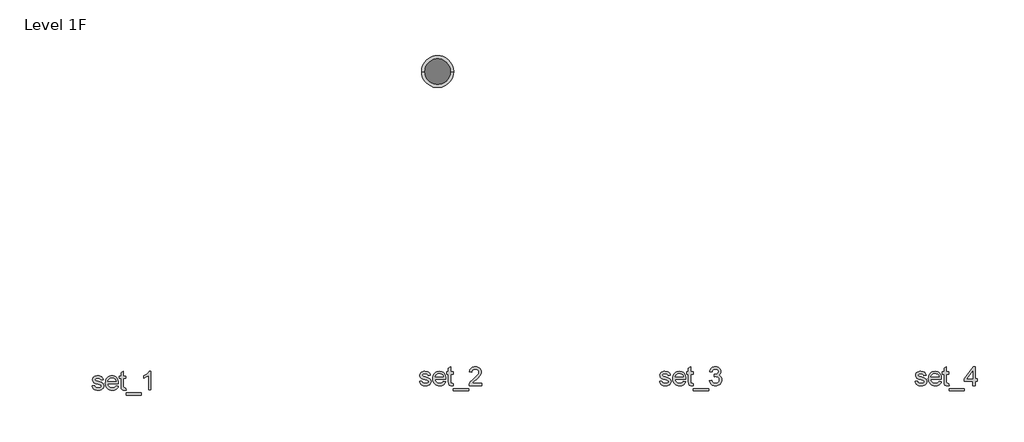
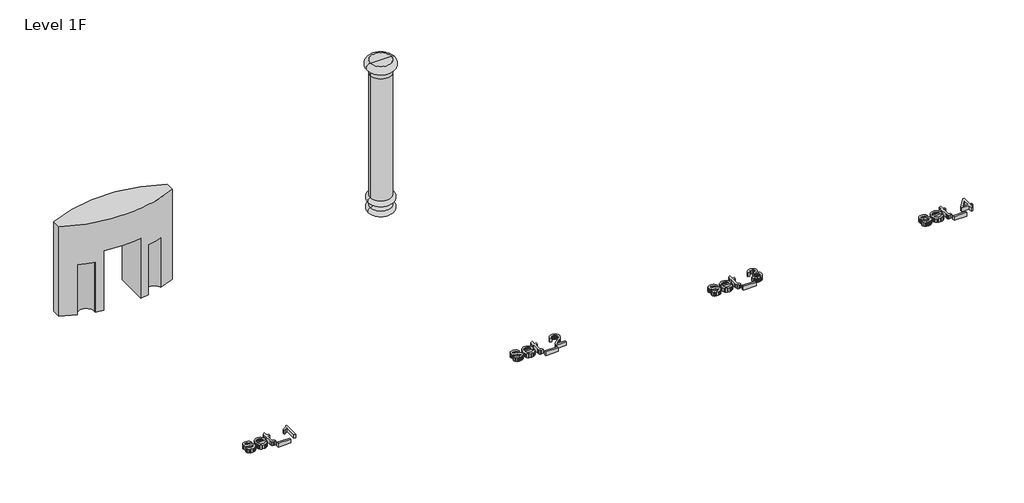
# One storey, incomplete: 6 proxies.
"""IFC4 building model written with IfcOpenShell, lengths in millimetres."""

from ifc_helpers import new_model, si_unit, point, frame, origin, place, context, project, spatial, polyline, circle_curve, ellipse_curve, trimmed, outline, extrude, element, save
from ifc_brep_helpers import plane_surface, cylinder_surface, revolved_surface, advanced_brep

model = new_model("IFC4")

# Units and contexts
model_context = context("Model", 3, world=origin())
ifc_project = project(units=[si_unit("LENGTHUNIT", "METRE", prefix="MILLI")], contexts=[model_context])

# Site, building, storey
site = spatial("IfcSite", under=ifc_project)
building = spatial("IfcBuilding", under=site)
storey = spatial("IfcBuildingStorey", under=building, Name="Level 1F", Elevation=100.0)

# Proxies
placement = place(None, origin())
element("IfcBuildingElementProxy", 1, Name="600mm Arial", ObjectType="600mm Arial", at=placement, inside=storey, context=model_context, shape_type="SweptSolid", body=[
    extrude(outline(polyline([(-14054.5708015, -36429.7363804), (-13980.7246477, -36420.5056111), (-13976.2625082, -36437.3445535), (-13969.078013, -36452.0921496), (-13959.1711621, -36464.7483996), (-13946.5419554, -36475.3133035), (-13931.1543352, -36483.6426304), (-13912.9722438, -36489.5921496), (-13868.2246477, -36494.351765), (-13824.0179169, -36489.9887842), (-13806.8364265, -36484.5350583), (-13792.9361861, -36476.8998419), (-13774.546763, -36457.9334958), (-13768.4169554, -36435.9383035), (-13769.9584217, -36425.9683515), (-13774.5828207, -36417.1161881), (-13793.0804169, -36402.7652265), (-13820.7366669, -36393.3902265), (-13869.0900323, -36381.7075342), (-13936.4818592, -36362.2183515), (-13980.2919554, -36345.5777265), (-14008.4349842, -36327.4226785), (-14028.8256092, -36303.3902265), (-14041.2114265, -36275.0128227), (-14045.3400323, -36243.8229188), (-14042.0227246, -36215.21114), (-14032.0708015, -36188.7988804), (-14016.3857054, -36165.6318131), (-13995.8688784, -36146.7556111), (-13975.4782534, -36134.8746015), (-13948.921763, -36124.9046496), (-13918.218638, -36118.1438323), (-13885.3881092, -36115.8902265), (-13837.3232054, -36119.5140246), (-13795.53234, -36130.3854188), (-13761.9265707, -36147.4407073), (-13738.4169554, -36169.6161881), (-13722.8400323, -36198.5524861), (-13713.03234, -36235.8902265), (-13786.8784938, -36245.1209958), (-13796.1994073, -36221.8818131), (-13814.6429169, -36204.3758035), (-13842.3893111, -36193.3962361), (-13879.6188784, -36189.7363804), (-13922.0227246, -36193.2339765), (-13950.2919554, -36203.726765), (-13966.1933977, -36218.8709958), (-13971.4938784, -36236.3229188), (-13969.2943592, -36247.6810919), (-13962.6958015, -36257.8133035), (-13951.4097438, -36266.8637842), (-13935.1477246, -36274.1113804), (-13871.5419554, -36289.8325342), (-13763.1525323, -36324.5921496), (-13734.5227246, -36341.2147458), (-13712.8159938, -36363.9671496), (-13699.1320996, -36392.9214765), (-13694.5708015, -36428.1498419), (-13699.9253688, -36464.5681111), (-13715.9890707, -36498.8229188), (-13742.1489265, -36528.2279669), (-13777.7919554, -36550.0969573), (-13820.84484, -36563.6726785), (-13869.234263, -36568.1979188), (-13908.9788544, -36566.0164285), (-13943.6933977, -36559.4719573), (-13973.3778929, -36548.5645054), (-13998.03234, -36533.2940727), (-14018.1705611, -36513.7327746), (-14034.3063784, -36489.9527265), (-14046.4397919, -36461.9539285), (-14054.5708015, -36429.7363804)])), frame((0.0, 0.0, 100.0), z_axis=(0.0, 0.0, 1.0), x_axis=(1.0, 0.0, 0.0)), (0.0, 0.0, 1.0), 150.0),
    extrude(outline(polyline([(-13307.7438784, -36429.7363804), (-13235.3400323, -36438.9671496), (-13246.4412943, -36467.9665486), (-13261.4277727, -36493.5224381), (-13280.2994674, -36515.6348179), (-13303.0563784, -36534.3036881), (-13329.4641308, -36549.132414), (-13359.2883496, -36559.7243611), (-13392.5290347, -36566.0795294), (-13429.1861861, -36568.1979188), (-13475.0064986, -36564.5425703), (-13515.8328207, -36553.5765246), (-13551.6651525, -36535.2997818), (-13582.5034938, -36509.7123419), (-13607.3021717, -36477.5263443), (-13625.015513, -36439.4539285), (-13635.6435179, -36395.4950943), (-13639.1861861, -36345.6498419), (-13635.6074602, -36294.1143852), (-13624.8712823, -36248.6907073), (-13606.9776525, -36209.3788083), (-13581.9265707, -36176.1786881), (-13551.1693592, -36149.8024861), (-13516.15734, -36130.9623419), (-13476.890513, -36119.6582554), (-13433.3688784, -36115.8902265), (-13391.2489866, -36119.649241), (-13353.1585419, -36130.9262842), (-13319.0975443, -36149.7213563), (-13289.0659938, -36176.0344573), (-13264.5512703, -36209.1624621), (-13247.0407534, -36248.4022458), (-13236.5344433, -36293.7538083), (-13233.03234, -36345.2171496), (-13233.4650323, -36365.1209958), (-13565.3400323, -36365.1209958), (-13561.0626885, -36394.5891448), (-13552.5575804, -36420.3974381), (-13539.8247078, -36442.5458756), (-13522.8640707, -36461.0344573), (-13502.6131693, -36475.6107794), (-13480.0095034, -36486.0224381), (-13455.0530731, -36492.2694333), (-13427.7438784, -36494.351765), (-13388.4409938, -36490.4935919), (-13355.3400323, -36478.9190727), (-13328.4409938, -36458.9070535), (-13307.7438784, -36429.7363804)]), holes=[polyline([(-13565.3400323, -36291.2748419), (-13306.8784938, -36291.2748419), (-13316.8664746, -36252.2604188), (-13325.4572198, -36236.9178708), (-13336.4458015, -36224.351765), (-13356.5840227, -36209.2075342), (-13379.4986861, -36198.3902265), (-13405.1897919, -36191.8998419), (-13433.65734, -36189.7363804), (-13459.6233856, -36191.4626424), (-13483.4349842, -36196.6414285), (-13505.0921356, -36205.2727385), (-13524.59484, -36217.3565727), (-13540.9605251, -36232.3340366), (-13553.2066188, -36249.6462361), (-13561.3331212, -36269.2931712), (-13565.3400323, -36291.2748419)])]), frame((0.0, 0.0, 100.0), z_axis=(0.0, 0.0, 1.0), x_axis=(1.0, 0.0, 0.0)), (0.0, 0.0, 1.0), 150.0),
    extrude(outline(polyline([(-13002.2631092, -36497.3806111), (-12993.03234, -36561.1306111), (-13048.2727246, -36568.1979188), (-13083.7174361, -36565.133015), (-13110.1477246, -36555.9383035), (-13128.8256092, -36541.7676304), (-13141.0131092, -36523.7748419), (-13147.71984, -36492.8733996), (-13149.9554169, -36439.976765), (-13149.9554169, -36198.9671496), (-13205.3400323, -36198.9671496), (-13205.3400323, -36125.1209958), (-13149.9554169, -36125.1209958), (-13149.9554169, -36019.6883035), (-13076.109263, -35976.2748419), (-13076.109263, -36125.1209958), (-13002.2631092, -36125.1209958), (-13002.2631092, -36198.9671496), (-13076.109263, -36198.9671496), (-13076.109263, -36437.8133035), (-13072.2150323, -36475.8902265), (-13059.59484, -36489.3758035), (-13048.9397919, -36493.1077746), (-13034.4265707, -36494.351765), (-13002.2631092, -36497.3806111)])), frame((0.0, 0.0, 100.0), z_axis=(0.0, 0.0, 1.0), x_axis=(1.0, 0.0, 0.0)), (0.0, 0.0, 1.0), 150.0),
    extrude(outline(polyline([(-12993.03234, -36725.1209958), (-12993.03234, -36651.2748419), (-12513.03234, -36651.2748419), (-12513.03234, -36725.1209958), (-12993.03234, -36725.1209958)])), frame((0.0, 0.0, 100.0), z_axis=(0.0, 0.0, 1.0), x_axis=(1.0, 0.0, 0.0)), (0.0, 0.0, 1.0), 150.0),
    extrude(outline(polyline([(-12217.6477246, -36558.9671496), (-12291.4938784, -36558.9671496), (-12291.4938784, -36098.5825342), (-12322.3232054, -36123.5164285), (-12361.4458015, -36148.414265), (-12402.515513, -36170.1750823), (-12439.1861861, -36185.6979188), (-12439.1861861, -36115.8902265), (-12381.187388, -36084.3397458), (-12330.9409938, -36046.8036881), (-12291.3316188, -36006.8878227), (-12265.2438784, -35968.1979188), (-12217.6477246, -35968.1979188), (-12217.6477246, -36558.9671496)])), frame((0.0, 0.0, 100.0), z_axis=(0.0, 0.0, 1.0), x_axis=(1.0, 0.0, 0.0)), (0.0, 0.0, 1.0), 150.0),
])
element("IfcBuildingElementProxy", 2, Name="600mm Arial", ObjectType="600mm Arial", at=placement, inside=storey, context=model_context, shape_type="SweptSolid", body=[
    extrude(outline(polyline([(-3809.5939102, -36291.1306753), (-3735.7477563, -36281.8999061), (-3731.2856169, -36298.7388484), (-3724.1011217, -36313.4864446), (-3714.1942707, -36326.1426946), (-3701.565064, -36336.7075984), (-3686.1774438, -36345.0369253), (-3667.9953525, -36350.9864446), (-3623.2477563, -36355.74606), (-3579.0410256, -36351.3830792), (-3561.8595352, -36345.9293532), (-3547.9592948, -36338.2941369), (-3529.5698717, -36319.3277907), (-3523.440064, -36297.3325984), (-3524.9815304, -36287.3626465), (-3529.6059294, -36278.510483), (-3548.1035256, -36264.1595215), (-3575.7597756, -36254.7845215), (-3624.1131409, -36243.1018292), (-3691.5049679, -36223.6126465), (-3735.315064, -36206.9720215), (-3763.4580929, -36188.8169734), (-3783.8487179, -36164.7845215), (-3796.2345352, -36136.4071177), (-3800.3631409, -36105.2172138), (-3797.0458332, -36076.605435), (-3787.0939102, -36050.1931753), (-3771.408814, -36027.026108), (-3750.8919871, -36008.1499061), (-3730.5013621, -35996.2688965), (-3703.9448717, -35986.2989446), (-3673.2417467, -35979.5381273), (-3640.4112179, -35977.2845215), (-3592.346314, -35980.9083196), (-3550.5554486, -35991.7797138), (-3516.9496794, -36008.8350023), (-3493.440064, -36031.010483), (-3477.8631409, -36059.9467811), (-3468.0554486, -36097.2845215), (-3541.9016025, -36106.5152907), (-3551.2225159, -36083.276108), (-3569.6660256, -36065.7700984), (-3597.4124198, -36054.7905311), (-3634.6419871, -36051.1306753), (-3677.0458332, -36054.6282715), (-3705.315064, -36065.12106), (-3721.2165063, -36080.2652907), (-3726.5169871, -36097.7172138), (-3724.3174679, -36109.0753869), (-3717.7189102, -36119.2075984), (-3706.4328525, -36128.2580792), (-3690.1708332, -36135.5056753), (-3626.565064, -36151.2268292), (-3518.1756409, -36185.9864446), (-3489.5458332, -36202.6090407), (-3467.8391025, -36225.3614446), (-3454.1552082, -36254.3157715), (-3449.5939102, -36289.5441369), (-3454.9484775, -36325.9624061), (-3471.0121794, -36360.2172138), (-3497.1720352, -36389.6222619), (-3532.815064, -36411.4912523), (-3575.8679486, -36425.0669734), (-3624.2573717, -36429.5922138), (-3664.0019631, -36427.4107234), (-3698.7165063, -36420.8662523), (-3728.4010015, -36409.9588003), (-3753.0554486, -36394.6883677), (-3773.1936698, -36375.1270696), (-3789.3294871, -36351.3470215), (-3801.4629006, -36323.3482234), (-3809.5939102, -36291.1306753)])), frame((0.0, 0.0, 100.0), z_axis=(0.0, 0.0, 1.0), x_axis=(1.0, 0.0, 0.0)), (0.0, 0.0, 1.0), 150.0),
    extrude(outline(polyline([(-3062.7669871, -36291.1306753), (-2990.3631409, -36300.3614446), (-3001.464403, -36329.3608436), (-3016.4508813, -36354.916733), (-3035.322576, -36377.0291128), (-3058.0794871, -36395.697983), (-3084.4872395, -36410.526709), (-3114.3114582, -36421.1186561), (-3147.5521433, -36427.4738244), (-3184.2092948, -36429.5922138), (-3230.0296073, -36425.9368653), (-3270.8559294, -36414.9708196), (-3306.6882611, -36396.6940768), (-3337.5266025, -36371.1066369), (-3362.3252804, -36338.9206393), (-3380.0386217, -36300.8482234), (-3390.6666265, -36256.8893893), (-3394.2092948, -36207.0441369), (-3390.6305688, -36155.5086802), (-3379.8943909, -36110.0850023), (-3362.0007611, -36070.7731032), (-3336.9496794, -36037.572983), (-3306.1924679, -36011.1967811), (-3271.1804486, -35992.3566369), (-3231.9136217, -35981.0525503), (-3188.3919871, -35977.2845215), (-3146.2720953, -35981.0435359), (-3108.1816506, -35992.3205792), (-3074.120653, -36011.1156513), (-3044.0891025, -36037.4287523), (-3019.5743789, -36070.5567571), (-3002.0638621, -36109.7965407), (-2991.557552, -36155.1481032), (-2988.0554486, -36206.6114446), (-2988.4881409, -36226.5152907), (-3320.3631409, -36226.5152907), (-3316.0857972, -36255.9834398), (-3307.580689, -36281.791733), (-3294.8478164, -36303.9401705), (-3277.8871794, -36322.4287523), (-3257.636278, -36337.0050744), (-3235.0326121, -36347.416733), (-3210.0761818, -36353.6637282), (-3182.7669871, -36355.74606), (-3143.4641025, -36351.8878869), (-3110.3631409, -36340.3133677), (-3083.4641025, -36320.3013484), (-3062.7669871, -36291.1306753)]), holes=[polyline([(-3320.3631409, -36152.6691369), (-3061.9016025, -36152.6691369), (-3071.8895832, -36113.6547138), (-3080.4803284, -36098.3121657), (-3091.4689102, -36085.74606), (-3111.6071313, -36070.6018292), (-3134.5217948, -36059.7845215), (-3160.2129006, -36053.2941369), (-3188.6804486, -36051.1306753), (-3214.6464943, -36052.8569374), (-3238.4580929, -36058.0357234), (-3260.1152443, -36066.6670335), (-3279.6179486, -36078.7508677), (-3295.9836337, -36093.7283316), (-3308.2297275, -36111.0405311), (-3316.3562299, -36130.6874662), (-3320.3631409, -36152.6691369)])]), frame((0.0, 0.0, 100.0), z_axis=(0.0, 0.0, 1.0), x_axis=(1.0, 0.0, 0.0)), (0.0, 0.0, 1.0), 150.0),
    extrude(outline(polyline([(-2757.2862179, -36358.7749061), (-2748.0554486, -36422.5249061), (-2803.2958332, -36429.5922138), (-2838.7405448, -36426.52731), (-2865.1708332, -36417.3325984), (-2883.8487179, -36403.1619253), (-2896.0362179, -36385.1691369), (-2902.7429486, -36354.2676946), (-2904.9785256, -36301.37106), (-2904.9785256, -36060.3614446), (-2960.3631409, -36060.3614446), (-2960.3631409, -35986.5152907), (-2904.9785256, -35986.5152907), (-2904.9785256, -35881.0825984), (-2831.1323717, -35837.6691369), (-2831.1323717, -35986.5152907), (-2757.2862179, -35986.5152907), (-2757.2862179, -36060.3614446), (-2831.1323717, -36060.3614446), (-2831.1323717, -36299.2075984), (-2827.2381409, -36337.2845215), (-2814.6179486, -36350.7700984), (-2803.9629006, -36354.5020696), (-2789.4496794, -36355.74606), (-2757.2862179, -36358.7749061)])), frame((0.0, 0.0, 100.0), z_axis=(0.0, 0.0, 1.0), x_axis=(1.0, 0.0, 0.0)), (0.0, 0.0, 1.0), 150.0),
    extrude(outline(polyline([(-2748.0554486, -36586.5152907), (-2748.0554486, -36512.6691369), (-2268.0554486, -36512.6691369), (-2268.0554486, -36586.5152907), (-2748.0554486, -36586.5152907)])), frame((0.0, 0.0, 100.0), z_axis=(0.0, 0.0, 1.0), x_axis=(1.0, 0.0, 0.0)), (0.0, 0.0, 1.0), 150.0),
    extrude(outline(polyline([(-1871.1323717, -36346.5152907), (-1871.1323717, -36420.3614446), (-2258.8246794, -36420.3614446), (-2257.2020832, -36394.3638484), (-2250.8919871, -36369.447983), (-2232.6828525, -36329.6583196), (-2206.0362179, -36291.05856), (-2167.4905448, -36250.6559157), (-2113.5842948, -36205.4575984), (-2033.8967948, -36134.6763484), (-1986.0842948, -36082.4287523), (-1972.1389823, -36061.0825984), (-1962.1780448, -36040.0249061), (-1956.2014823, -36019.2556753), (-1954.2092948, -35998.7749061), (-1956.088802, -35979.5065768), (-1961.7273236, -35961.7977427), (-1971.1248597, -35945.6484037), (-1984.2814102, -35931.05856), (-2000.4668068, -35918.9747258), (-2018.9508813, -35910.3434157), (-2039.7336337, -35905.1646297), (-2062.815064, -35903.4383677), (-2087.1314703, -35905.1240648), (-2108.8787659, -35910.1811561), (-2128.056951, -35918.6096417), (-2144.6660256, -35930.4095215), (-2158.1020232, -35945.1841609), (-2167.7609775, -35962.5369253), (-2173.6428885, -35982.4678148), (-2175.7477563, -36004.9768292), (-2249.5939102, -35995.74606), (-2243.2432491, -35957.6240648), (-2231.6912659, -35924.3157715), (-2214.9379607, -35895.8211802), (-2192.9833332, -35872.1402907), (-2166.3321914, -35853.5255071), (-2135.4893429, -35840.229233), (-2100.4547876, -35832.2514686), (-2061.2285256, -35829.5922138), (-2021.650701, -35832.5489446), (-1986.4268429, -35841.4191369), (-1955.556951, -35856.2027907), (-1929.0410256, -35876.8999061), (-1907.744451, -35901.9780311), (-1892.5326121, -35929.9047138), (-1883.4055087, -35960.6799542), (-1880.3631409, -35994.3037523), (-1883.6443909, -36029.6222619), (-1893.4881409, -36064.3277907), (-1910.9580929, -36099.6282715), (-1937.1179486, -36136.7316369), (-1978.8186698, -36181.0285119), (-2042.9112179, -36237.9095215), (-2127.8631409, -36308.9431753), (-2161.1804486, -36346.5152907), (-1871.1323717, -36346.5152907)])), frame((0.0, 0.0, 100.0), z_axis=(0.0, 0.0, 1.0), x_axis=(1.0, 0.0, 0.0)), (0.0, 0.0, 1.0), 150.0),
])
element("IfcBuildingElementProxy", 3, Name="600mm Arial", ObjectType="600mm Arial", at=placement, inside=storey, context=model_context, shape_type="SweptSolid", body=[
    extrude(outline(polyline([(3701.1603942, -36291.1306753), (3775.006548, -36281.8999061), (3779.4686875, -36298.7388484), (3786.6531827, -36313.4864446), (3796.5600336, -36326.1426946), (3809.1892403, -36336.7075984), (3824.5768605, -36345.0369253), (3842.7589519, -36350.9864446), (3887.506548, -36355.74606), (3931.7132788, -36351.3830792), (3948.8947692, -36345.9293532), (3962.7950096, -36338.2941369), (3981.1844327, -36319.3277907), (3987.3142403, -36297.3325984), (3985.772774, -36287.3626465), (3981.148375, -36278.510483), (3962.6507788, -36264.1595215), (3934.9945288, -36254.7845215), (3886.6411634, -36243.1018292), (3819.2493365, -36223.6126465), (3775.4392403, -36206.9720215), (3747.2962115, -36188.8169734), (3726.9055865, -36164.7845215), (3714.5197692, -36136.4071177), (3710.3911634, -36105.2172138), (3713.7084711, -36076.605435), (3723.6603942, -36050.1931753), (3739.3454903, -36027.026108), (3759.8623173, -36008.1499061), (3780.2529423, -35996.2688965), (3806.8094327, -35986.2989446), (3837.5125577, -35979.5381273), (3870.3430865, -35977.2845215), (3918.4079903, -35980.9083196), (3960.1988557, -35991.7797138), (3993.804625, -36008.8350023), (4017.3142403, -36031.010483), (4032.8911634, -36059.9467811), (4042.6988557, -36097.2845215), (3968.8527019, -36106.5152907), (3959.5317884, -36083.276108), (3941.0882788, -36065.7700984), (3913.3418846, -36054.7905311), (3876.1123173, -36051.1306753), (3833.7084711, -36054.6282715), (3805.4392403, -36065.12106), (3789.537798, -36080.2652907), (3784.2373173, -36097.7172138), (3786.4368365, -36109.0753869), (3793.0353942, -36119.2075984), (3804.3214519, -36128.2580792), (3820.5834711, -36135.5056753), (3884.1892403, -36151.2268292), (3992.5786634, -36185.9864446), (4021.2084711, -36202.6090407), (4042.9152019, -36225.3614446), (4056.5990961, -36254.3157715), (4061.1603942, -36289.5441369), (4055.8058269, -36325.9624061), (4039.742125, -36360.2172138), (4013.5822692, -36389.6222619), (3977.9392403, -36411.4912523), (3934.8863557, -36425.0669734), (3886.4969327, -36429.5922138), (3846.7523413, -36427.4107234), (3812.037798, -36420.8662523), (3782.3533028, -36409.9588003), (3757.6988557, -36394.6883677), (3737.5606346, -36375.1270696), (3721.4248173, -36351.3470215), (3709.2914038, -36323.3482234), (3701.1603942, -36291.1306753)])), frame((0.0, 0.0, 100.0), z_axis=(0.0, 0.0, 1.0), x_axis=(1.0, 0.0, 0.0)), (0.0, 0.0, 1.0), 150.0),
    extrude(outline(polyline([(4447.9873173, -36291.1306753), (4520.3911634, -36300.3614446), (4509.2899014, -36329.3608436), (4494.303423, -36354.916733), (4475.4317283, -36377.0291128), (4452.6748173, -36395.697983), (4426.2670649, -36410.526709), (4396.4428461, -36421.1186561), (4363.202161, -36427.4738244), (4326.5450096, -36429.5922138), (4280.7246971, -36425.9368653), (4239.898375, -36414.9708196), (4204.0660432, -36396.6940768), (4173.2277019, -36371.1066369), (4148.429024, -36338.9206393), (4130.7156827, -36300.8482234), (4120.0876778, -36256.8893893), (4116.5450096, -36207.0441369), (4120.1237355, -36155.5086802), (4130.8599134, -36110.0850023), (4148.7535432, -36070.7731032), (4173.804625, -36037.572983), (4204.5618365, -36011.1967811), (4239.5738557, -35992.3566369), (4278.8406827, -35981.0525503), (4322.3623173, -35977.2845215), (4364.4822091, -35981.0435359), (4402.5726538, -35992.3205792), (4436.6336514, -36011.1156513), (4466.6652019, -36037.4287523), (4491.1799254, -36070.5567571), (4508.6904423, -36109.7965407), (4519.1967524, -36155.1481032), (4522.6988557, -36206.6114446), (4522.2661634, -36226.5152907), (4190.3911634, -36226.5152907), (4194.6685072, -36255.9834398), (4203.1736153, -36281.791733), (4215.9064879, -36303.9401705), (4232.867125, -36322.4287523), (4253.1180264, -36337.0050744), (4275.7216923, -36347.416733), (4300.6781226, -36353.6637282), (4327.9873173, -36355.74606), (4367.2902019, -36351.8878869), (4400.3911634, -36340.3133677), (4427.2902019, -36320.3013484), (4447.9873173, -36291.1306753)]), holes=[polyline([(4190.3911634, -36152.6691369), (4448.8527019, -36152.6691369), (4438.8647211, -36113.6547138), (4430.2739759, -36098.3121657), (4419.2853942, -36085.74606), (4399.147173, -36070.6018292), (4376.2325096, -36059.7845215), (4350.5414038, -36053.2941369), (4322.0738557, -36051.1306753), (4296.1078101, -36052.8569374), (4272.2962115, -36058.0357234), (4250.6390601, -36066.6670335), (4231.1363557, -36078.7508677), (4214.7706706, -36093.7283316), (4202.5245769, -36111.0405311), (4194.3980745, -36130.6874662), (4190.3911634, -36152.6691369)])]), frame((0.0, 0.0, 100.0), z_axis=(0.0, 0.0, 1.0), x_axis=(1.0, 0.0, 0.0)), (0.0, 0.0, 1.0), 150.0),
    extrude(outline(polyline([(4753.4680865, -36358.7749061), (4762.6988557, -36422.5249061), (4707.4584711, -36429.5922138), (4672.0137596, -36426.52731), (4645.5834711, -36417.3325984), (4626.9055865, -36403.1619253), (4614.7180865, -36385.1691369), (4608.0113557, -36354.2676946), (4605.7757788, -36301.37106), (4605.7757788, -36060.3614446), (4550.3911634, -36060.3614446), (4550.3911634, -35986.5152907), (4605.7757788, -35986.5152907), (4605.7757788, -35881.0825984), (4679.6219327, -35837.6691369), (4679.6219327, -35986.5152907), (4753.4680865, -35986.5152907), (4753.4680865, -36060.3614446), (4679.6219327, -36060.3614446), (4679.6219327, -36299.2075984), (4683.5161634, -36337.2845215), (4696.1363557, -36350.7700984), (4706.7914038, -36354.5020696), (4721.304625, -36355.74606), (4753.4680865, -36358.7749061)])), frame((0.0, 0.0, 100.0), z_axis=(0.0, 0.0, 1.0), x_axis=(1.0, 0.0, 0.0)), (0.0, 0.0, 1.0), 150.0),
    extrude(outline(polyline([(4762.6988557, -36586.5152907), (4762.6988557, -36512.6691369), (5242.6988557, -36512.6691369), (5242.6988557, -36586.5152907), (4762.6988557, -36586.5152907)])), frame((0.0, 0.0, 100.0), z_axis=(0.0, 0.0, 1.0), x_axis=(1.0, 0.0, 0.0)), (0.0, 0.0, 1.0), 150.0),
    extrude(outline(polyline([(5261.1603942, -36263.4383677), (5335.006548, -36254.2075984), (5351.539, -36300.6138484), (5362.6853341, -36318.1649302), (5375.7517403, -36331.947983), (5391.0356947, -36342.3596417), (5408.834673, -36349.7965407), (5429.1486754, -36354.2586802), (5451.9777019, -36355.74606), (5478.7325096, -36353.6997859), (5502.6027019, -36347.5609638), (5523.5882788, -36337.3295936), (5541.6892403, -36323.0056753), (5556.2655625, -36305.6619253), (5566.6772211, -36286.37106), (5572.9242163, -36265.1330792), (5575.006548, -36241.947983), (5572.9422452, -36219.8671537), (5566.7493365, -36199.7785119), (5556.4278221, -36181.6820576), (5541.9777019, -36165.5777907), (5524.3454903, -36152.3581393), (5504.4777019, -36142.9155311), (5482.3743365, -36137.2499662), (5458.0353942, -36135.3614446), (5434.7060673, -36137.3806753), (5406.256548, -36143.4383677), (5414.4777019, -36069.5922138), (5426.304625, -36070.4575984), (5470.5474134, -36065.1571177), (5510.1027019, -36049.2556753), (5526.38275, -36037.230435), (5538.0113557, -36022.3566369), (5544.9885192, -36004.6342811), (5547.3142403, -35984.0633677), (5545.6285432, -35967.3641489), (5540.5714519, -35952.1703388), (5532.1429663, -35938.4819374), (5520.3430865, -35926.2989446), (5505.8839519, -35916.2974422), (5489.4777019, -35909.1535119), (5450.8238557, -35903.4383677), (5412.0978942, -35909.2075984), (5395.3851538, -35916.4191369), (5380.4392403, -35926.5152907), (5367.6297452, -35939.49606), (5357.3262596, -35955.3614446), (5349.5287836, -35974.1114446), (5344.2373173, -35995.74606), (5270.3911634, -35986.5152907), (5279.1441682, -35951.2598821), (5292.1339519, -35920.2051946), (5309.3605144, -35893.3512282), (5330.8238557, -35870.697983), (5355.8478942, -35852.714209), (5383.756548, -35839.8686561), (5414.5498173, -35832.1613244), (5448.2277019, -35829.5922138), (5494.6519807, -35834.6583196), (5537.2902019, -35849.8566369), (5573.2397211, -35873.8350023), (5599.5978942, -35905.2412523), (5615.7697692, -35941.4251465), (5621.1603942, -35979.7364446), (5616.0402019, -36015.43356), (5600.679625, -36047.8133677), (5575.2950096, -36075.3975023), (5540.1027019, -36096.7075984), (5564.7120769, -36104.4059157), (5586.3286634, -36115.385483), (5604.9524615, -36129.6463003), (5620.5834711, -36147.1883677), (5632.9512596, -36167.5789927), (5641.7853942, -36190.385483), (5647.085875, -36215.6078388), (5648.8527019, -36243.24606), (5645.319048, -36280.7100023), (5634.7180865, -36315.2172138), (5617.0498173, -36346.7676946), (5592.3142403, -36375.3614446), (5562.179024, -36399.0874061), (5528.3118365, -36416.0345215), (5490.7126778, -36426.2027907), (5449.381548, -36429.5922138), (5412.0257788, -36426.698584), (5377.9873173, -36418.0176946), (5347.2661634, -36403.5495455), (5319.8623173, -36383.2941369), (5296.8845528, -36358.4413725), (5279.4416442, -36330.1811561), (5267.5335913, -36298.5134878), (5261.1603942, -36263.4383677)])), frame((0.0, 0.0, 100.0), z_axis=(0.0, 0.0, 1.0), x_axis=(1.0, 0.0, 0.0)), (0.0, 0.0, 1.0), 150.0),
])
element("IfcBuildingElementProxy", 4, Name="600mm Arial", ObjectType="600mm Arial", at=placement, inside=storey, context=model_context, shape_type="SweptSolid", body=[
    extrude(outline(polyline([(11701.1603942, -36291.1306753), (11775.006548, -36281.8999061), (11779.4686875, -36298.7388484), (11786.6531827, -36313.4864446), (11796.5600336, -36326.1426946), (11809.1892403, -36336.7075984), (11824.5768605, -36345.0369253), (11842.7589519, -36350.9864446), (11887.506548, -36355.74606), (11931.7132788, -36351.3830792), (11948.8947692, -36345.9293532), (11962.7950096, -36338.2941369), (11981.1844327, -36319.3277907), (11987.3142403, -36297.3325984), (11985.772774, -36287.3626465), (11981.148375, -36278.510483), (11962.6507788, -36264.1595215), (11934.9945288, -36254.7845215), (11886.6411634, -36243.1018292), (11819.2493365, -36223.6126465), (11775.4392403, -36206.9720215), (11747.2962115, -36188.8169734), (11726.9055865, -36164.7845215), (11714.5197692, -36136.4071177), (11710.3911634, -36105.2172138), (11713.7084711, -36076.605435), (11723.6603942, -36050.1931753), (11739.3454903, -36027.026108), (11759.8623173, -36008.1499061), (11780.2529423, -35996.2688965), (11806.8094327, -35986.2989446), (11837.5125577, -35979.5381273), (11870.3430865, -35977.2845215), (11918.4079903, -35980.9083196), (11960.1988557, -35991.7797138), (11993.804625, -36008.8350023), (12017.3142403, -36031.010483), (12032.8911634, -36059.9467811), (12042.6988557, -36097.2845215), (11968.8527019, -36106.5152907), (11959.5317884, -36083.276108), (11941.0882788, -36065.7700984), (11913.3418846, -36054.7905311), (11876.1123173, -36051.1306753), (11833.7084711, -36054.6282715), (11805.4392403, -36065.12106), (11789.537798, -36080.2652907), (11784.2373173, -36097.7172138), (11786.4368365, -36109.0753869), (11793.0353942, -36119.2075984), (11804.3214519, -36128.2580792), (11820.5834711, -36135.5056753), (11884.1892403, -36151.2268292), (11992.5786634, -36185.9864446), (12021.2084711, -36202.6090407), (12042.9152019, -36225.3614446), (12056.5990961, -36254.3157715), (12061.1603942, -36289.5441369), (12055.8058269, -36325.9624061), (12039.742125, -36360.2172138), (12013.5822692, -36389.6222619), (11977.9392403, -36411.4912523), (11934.8863557, -36425.0669734), (11886.4969327, -36429.5922138), (11846.7523413, -36427.4107234), (11812.037798, -36420.8662523), (11782.3533028, -36409.9588003), (11757.6988557, -36394.6883677), (11737.5606346, -36375.1270696), (11721.4248173, -36351.3470215), (11709.2914038, -36323.3482234), (11701.1603942, -36291.1306753)])), frame((0.0, 0.0, 100.0), z_axis=(0.0, 0.0, 1.0), x_axis=(1.0, 0.0, 0.0)), (0.0, 0.0, 1.0), 150.0),
    extrude(outline(polyline([(12447.9873173, -36291.1306753), (12520.3911634, -36300.3614446), (12509.2899014, -36329.3608436), (12494.303423, -36354.916733), (12475.4317283, -36377.0291128), (12452.6748173, -36395.697983), (12426.2670649, -36410.526709), (12396.4428461, -36421.1186561), (12363.202161, -36427.4738244), (12326.5450096, -36429.5922138), (12280.7246971, -36425.9368653), (12239.898375, -36414.9708196), (12204.0660432, -36396.6940768), (12173.2277019, -36371.1066369), (12148.429024, -36338.9206393), (12130.7156827, -36300.8482234), (12120.0876778, -36256.8893893), (12116.5450096, -36207.0441369), (12120.1237355, -36155.5086802), (12130.8599134, -36110.0850023), (12148.7535432, -36070.7731032), (12173.804625, -36037.572983), (12204.5618365, -36011.1967811), (12239.5738557, -35992.3566369), (12278.8406827, -35981.0525503), (12322.3623173, -35977.2845215), (12364.4822091, -35981.0435359), (12402.5726538, -35992.3205792), (12436.6336514, -36011.1156513), (12466.6652019, -36037.4287523), (12491.1799254, -36070.5567571), (12508.6904423, -36109.7965407), (12519.1967524, -36155.1481032), (12522.6988557, -36206.6114446), (12522.2661634, -36226.5152907), (12190.3911634, -36226.5152907), (12194.6685072, -36255.9834398), (12203.1736153, -36281.791733), (12215.9064879, -36303.9401705), (12232.867125, -36322.4287523), (12253.1180264, -36337.0050744), (12275.7216923, -36347.416733), (12300.6781226, -36353.6637282), (12327.9873173, -36355.74606), (12367.2902019, -36351.8878869), (12400.3911634, -36340.3133677), (12427.2902019, -36320.3013484), (12447.9873173, -36291.1306753)]), holes=[polyline([(12190.3911634, -36152.6691369), (12448.8527019, -36152.6691369), (12438.8647211, -36113.6547138), (12430.2739759, -36098.3121657), (12419.2853942, -36085.74606), (12399.147173, -36070.6018292), (12376.2325096, -36059.7845215), (12350.5414038, -36053.2941369), (12322.0738557, -36051.1306753), (12296.1078101, -36052.8569374), (12272.2962115, -36058.0357234), (12250.6390601, -36066.6670335), (12231.1363557, -36078.7508677), (12214.7706706, -36093.7283316), (12202.5245769, -36111.0405311), (12194.3980745, -36130.6874662), (12190.3911634, -36152.6691369)])]), frame((0.0, 0.0, 100.0), z_axis=(0.0, 0.0, 1.0), x_axis=(1.0, 0.0, 0.0)), (0.0, 0.0, 1.0), 150.0),
    extrude(outline(polyline([(12753.4680865, -36358.7749061), (12762.6988557, -36422.5249061), (12707.4584711, -36429.5922138), (12672.0137596, -36426.52731), (12645.5834711, -36417.3325984), (12626.9055865, -36403.1619253), (12614.7180865, -36385.1691369), (12608.0113557, -36354.2676946), (12605.7757788, -36301.37106), (12605.7757788, -36060.3614446), (12550.3911634, -36060.3614446), (12550.3911634, -35986.5152907), (12605.7757788, -35986.5152907), (12605.7757788, -35881.0825984), (12679.6219327, -35837.6691369), (12679.6219327, -35986.5152907), (12753.4680865, -35986.5152907), (12753.4680865, -36060.3614446), (12679.6219327, -36060.3614446), (12679.6219327, -36299.2075984), (12683.5161634, -36337.2845215), (12696.1363557, -36350.7700984), (12706.7914038, -36354.5020696), (12721.304625, -36355.74606), (12753.4680865, -36358.7749061)])), frame((0.0, 0.0, 100.0), z_axis=(0.0, 0.0, 1.0), x_axis=(1.0, 0.0, 0.0)), (0.0, 0.0, 1.0), 150.0),
    extrude(outline(polyline([(12762.6988557, -36586.5152907), (12762.6988557, -36512.6691369), (13242.6988557, -36512.6691369), (13242.6988557, -36586.5152907), (12762.6988557, -36586.5152907)])), frame((0.0, 0.0, 100.0), z_axis=(0.0, 0.0, 1.0), x_axis=(1.0, 0.0, 0.0)), (0.0, 0.0, 1.0), 150.0),
    extrude(outline(polyline([(13501.1603942, -36420.3614446), (13501.1603942, -36281.8999061), (13233.4680865, -36281.8999061), (13233.4680865, -36208.0537523), (13519.6219327, -35838.822983), (13575.006548, -35838.822983), (13575.006548, -36208.0537523), (13648.8527019, -36208.0537523), (13648.8527019, -36281.8999061), (13575.006548, -36281.8999061), (13575.006548, -36420.3614446), (13501.1603942, -36420.3614446)]), holes=[polyline([(13501.1603942, -36208.0537523), (13501.1603942, -35979.8806753), (13324.3334711, -36208.0537523), (13501.1603942, -36208.0537523)])]), frame((0.0, 0.0, 100.0), z_axis=(0.0, 0.0, 1.0), x_axis=(1.0, 0.0, 0.0)), (0.0, 0.0, 1.0), 150.0),
])
element("IfcBuildingElementProxy", 5, Name="mass_set_3_void : mass_set_3_void", ObjectType="mass_set_3_void : mass_set_3_void", at=placement, inside=storey, context=model_context, shape_type="AdvancedBrep", body=[
    advanced_brep(
    [(-15482.9657932, -26297.550542, 100.0), (-15482.9657932, -26627.9743069, 100.0), (-15482.9657932, -26627.9743069, 3700.0), (-15482.9657932, -26297.550542, 3700.0), (-14912.9812376, -26860.1897795, 100.0), (-14912.9812376, -26860.1897795, 2100.0), (-14334.2303508, -27017.4265787, 2100.0), (-14334.2303508, -27017.4265787, 100.0), (-14032.9657932, -27070.5915048, 100.0), (-14032.9657932, -27070.5915048, 2500.0), (-12632.9657932, -27075.6525647, 2500.0), (-12632.9657932, -27075.6525647, 100.0), (-12329.9436475, -27024.3898228, 100.0), (-12329.9436475, -27024.3898228, 2100.0), (-11749.857465, -26871.0935183, 2100.0), (-11749.857465, -26871.0935183, 100.0), (-11182.9657932, -26645.0225407, 100.0), (-11182.9657932, -26645.0225407, 3700.0), (-11182.9657932, -26297.550542, 100.0), (-11182.9657932, -26297.550542, 3700.0), (-12632.9657932, -25860.9374614, 100.0), (-12632.9657932, -25860.9374614, 2500.0), (-14032.9657932, -25860.9374614, 2500.0), (-14032.9657932, -25860.9374614, 100.0), (-14325.9654083, -26947.4933516, 100.0), (-12339.9661782, -26947.4933516, 100.0), (-14325.9654083, -26947.4933516, 2100.0), (-12339.9661782, -26947.4933516, 2100.0)],
    [
        (0, 1),
        (1, 2),
        (2, 3),
        (3, 0),
        (1, 4, circle_curve(frame((-13315.0687123, -22122.3975129, 100.0), z_axis=(0.0, 0.0, 1.0), x_axis=(0.9011153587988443, -0.4335794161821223, 0.0)), 5000.0)),
        (4, 5),
        (5, 6, circle_curve(frame((-13315.0687123, -22122.3975129, 2100.0), z_axis=(0.0, 0.0, 1.0), x_axis=(0.9011153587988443, -0.4335794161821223, 0.0)), 5000.0)),
        (6, 7),
        (7, 8, circle_curve(frame((-13315.0687123, -22122.3975129, 100.0), z_axis=(0.0, 0.0, 1.0), x_axis=(0.9011153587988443, -0.4335794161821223, 0.0)), 5000.0)),
        (8, 9),
        (9, 10, circle_curve(frame((-13315.0687123, -22122.3975129, 2500.0), z_axis=(0.0, 0.0, 1.0), x_axis=(0.9011153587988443, -0.4335794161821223, 0.0)), 5000.0)),
        (10, 11),
        (11, 12, circle_curve(frame((-13315.0687123, -22122.3975129, 100.0), z_axis=(0.0, 0.0, 1.0), x_axis=(0.9011153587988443, -0.4335794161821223, 0.0)), 5000.0)),
        (12, 13),
        (13, 14, circle_curve(frame((-13315.0687123, -22122.3975129, 2100.0), z_axis=(0.0, 0.0, 1.0), x_axis=(0.9011153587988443, -0.4335794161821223, 0.0)), 5000.0)),
        (14, 15),
        (15, 16, circle_curve(frame((-13315.0687123, -22122.3975129, 100.0), z_axis=(0.0, 0.0, 1.0), x_axis=(0.9011153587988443, -0.4335794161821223, 0.0)), 5000.0)),
        (16, 17),
        (17, 2, circle_curve(frame((-13315.0687123, -22122.3975129, 3700.0), z_axis=(0.0, 0.0, -1.0), x_axis=(0.9011153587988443, -0.4335794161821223, 0.0)), 5000.0)),
        (16, 18),
        (18, 19),
        (19, 17),
        (3, 19, circle_curve(frame((-13332.9657932, -30811.6949792, 3700.0), z_axis=(0.0, 0.0, -1.0), x_axis=(-0.9028288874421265, 0.430000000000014, 0.0)), 5000.0)),
        (18, 20, circle_curve(frame((-13332.9657932, -30811.6949792, 100.0), z_axis=(0.0, 0.0, 1.0), x_axis=(-0.9028288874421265, 0.430000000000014, 0.0)), 5000.0)),
        (20, 21),
        (21, 22, circle_curve(frame((-13332.9657932, -30811.6949792, 2500.0), z_axis=(0.0, 0.0, 1.0), x_axis=(-0.9028288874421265, 0.430000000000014, 0.0)), 5000.0)),
        (22, 23),
        (23, 0, circle_curve(frame((-13332.9657932, -30811.6949792, 100.0), z_axis=(0.0, 0.0, 1.0), x_axis=(-0.9028288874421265, 0.430000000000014, 0.0)), 5000.0)),
        (23, 8),
        (7, 24, circle_curve(frame((-14625.9654083, -26947.4933516, 100.0), z_axis=(0.0, 0.0, 1.0), x_axis=(0.0, -1.0, 0.0)), 300.0)),
        (24, 4, circle_curve(frame((-14625.9654083, -26947.4933516, 100.0), z_axis=(0.0, 0.0, 1.0), x_axis=(0.0, 1.0, 0.0)), 300.0)),
        (15, 25, circle_curve(frame((-12039.9661782, -26947.4933516, 100.0), z_axis=(0.0, 0.0, 1.0), x_axis=(0.0, 1.0, 0.0)), 300.0)),
        (25, 12, circle_curve(frame((-12039.9661782, -26947.4933516, 100.0), z_axis=(0.0, 0.0, 1.0), x_axis=(0.0, -1.0, 0.0)), 300.0)),
        (11, 20),
        (22, 9),
        (10, 21),
        (24, 26),
        (26, 5, circle_curve(frame((-14625.9654083, -26947.4933516, 2100.0), z_axis=(0.0, 0.0, 1.0), x_axis=(0.0, 1.0, 0.0)), 300.0)),
        (6, 26, circle_curve(frame((-14625.9654083, -26947.4933516, 2100.0), z_axis=(0.0, 0.0, 1.0), x_axis=(0.0, -1.0, 0.0)), 300.0)),
        (25, 27),
        (27, 13, circle_curve(frame((-12039.9661782, -26947.4933516, 2100.0), z_axis=(0.0, 0.0, 1.0), x_axis=(0.0, -1.0, 0.0)), 300.0)),
        (14, 27, circle_curve(frame((-12039.9661782, -26947.4933516, 2100.0), z_axis=(0.0, 0.0, 1.0), x_axis=(0.0, 1.0, 0.0)), 300.0)),
    ],
    [
        plane_surface(frame((-15482.9657932, -26462.7624244, 100.0), z_axis=(-1.0, 0.0, 0.0), x_axis=(0.0, -1.0, 0.0))),
        cylinder_surface(frame((-13315.0687123, -22122.3975129, 100.0), z_axis=(0.0, 0.0, 1.0), x_axis=(0.9011153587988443, -0.4335794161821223, 0.0)), 5000.0),
        plane_surface(frame((-11182.9657932, -26471.2865414, 100.0), z_axis=(1.0, 0.0, 0.0), x_axis=(0.0, 1.0, 0.0))),
        cylinder_surface(frame((-13332.9657932, -30811.6949792, 100.0), z_axis=(0.0, 0.0, 1.0), x_axis=(-0.9028288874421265, 0.430000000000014, 0.0)), 5000.0),
        plane_surface(frame((-13332.9657932, -26467.0244829, 3700.0), z_axis=(0.0, 0.0, 1.0), x_axis=(-1.0, 0.0, 0.0))),
        plane_surface(frame((-13332.9657932, -26467.0244829, 100.0), z_axis=(0.0, 0.0, -1.0), x_axis=(-1.0, 0.0, 0.0))),
        plane_surface(frame((-14032.9657932, -26510.0181854, 100.0), z_axis=(1.0, 0.0, 0.0), x_axis=(0.0, -1.0, 0.0))),
        plane_surface(frame((-12632.9657932, -26510.0181854, 100.0), z_axis=(-1.0, 0.0, 0.0), x_axis=(0.0, 1.0, 0.0))),
        plane_surface(frame((-13332.9657932, -26510.0181854, 2500.0), z_axis=(0.0, 0.0, -1.0), x_axis=(0.0, 1.0, 0.0))),
        revolved_surface(polyline([(-14625.9654083, -26647.4933516, 2100.0), (-14625.9654083, -26647.4933516, 100.0)]), (-14625.9654083, -26947.4933516, 100.0), (0.0, 0.0, 1.0)),
        revolved_surface(polyline([(-14625.9654083, -27247.4933516, 2100.0), (-14625.9654083, -27247.4933516, 100.0)]), (-14625.9654083, -26947.4933516, 100.0), (0.0, 0.0, 1.0)),
        plane_surface(frame((-14625.9654083, -26947.4933516, 2100.0), z_axis=(0.0, 0.0, -1.0), x_axis=(-1.0, 0.0, 0.0))),
        revolved_surface(polyline([(-12039.9661782, -27247.4933516, 2100.0), (-12039.9661782, -27247.4933516, 100.0)]), (-12039.9661782, -26947.4933516, 100.0), (0.0, 0.0, 1.0)),
        revolved_surface(polyline([(-12039.9661782, -26647.4933516, 2100.0), (-12039.9661782, -26647.4933516, 100.0)]), (-12039.9661782, -26947.4933516, 100.0), (0.0, 0.0, 1.0)),
        plane_surface(frame((-12039.9661782, -26947.4933516, 2100.0), z_axis=(0.0, 0.0, -1.0), x_axis=(-1.0, 0.0, 0.0))),
    ],
    [
        (0, [[1, 2, 3, 4]]),
        (1, [[-2, 5, 6, 7, 8, 9, 10, 11, 12, 13, 14, 15, 16, 17, 18, 19]]),
        (2, [[-18, 20, 21, 22]]),
        (3, [[-4, 23, -21, 24, 25, 26, 27, 28]]),
        (4, [[-3, -19, -22, -23]]),
        (5, [[-1, -28, 29, -9, 30, 31, -5]]),
        (5, [[-20, -17, 32, 33, -13, 34, -24]]),
        (6, [[35, -10, -29, -27]]),
        (7, [[36, -25, -34, -12]]),
        (8, [[-35, -26, -36, -11]]),
        (9, [[37, 38, -6, -31]]),
        (10, [[-37, -30, -8, 39]]),
        (11, [[-38, -39, -7]]),
        (12, [[40, 41, -14, -33]]),
        (13, [[-40, -32, -16, 42]]),
        (14, [[-41, -42, -15]]),
    ],
),
])
element("IfcBuildingElementProxy", 6, Name="mass_set_4_column : mass_set_4_column", ObjectType="mass_set_4_column : mass_set_4_column", at=placement, inside=storey, context=model_context, shape_type="AdvancedBrep", body=[
    advanced_brep(
    [(-2846.2539417, -26596.2748959, 5600.0), (-3646.2539417, -26596.2748959, 5600.0), (-3646.2539417, -26596.2748959, 5800.0), (-2846.2539417, -26596.2748959, 5800.0), (-2846.2539417, -26596.2748959, 700.0), (-3646.2539417, -26596.2748959, 700.0), (-2846.2539417, -26596.2748959, 500.0), (-3646.2539417, -26596.2748959, 500.0), (-2846.2539417, -26596.2748959, 300.0), (-3646.2539417, -26596.2748959, 300.0), (-2846.2539417, -26596.2748959, 100.0), (-3646.2539417, -26596.2748959, 100.0), (-3246.2539417, -26596.2748959, 100.0), (-2846.2539417, -26596.2748959, 6100.0), (-3646.2539417, -26596.2748959, 6100.0), (-3246.2539417, -26596.2748959, 6100.0)],
    [
        (0, 1, circle_curve(frame((-3246.2539417, -26596.2748959, 5600.0), z_axis=(0.0, 0.0, 1.0), x_axis=(-1.0, 0.0, 0.0)), 400.0)),
        (1, 2),
        (2, 3, circle_curve(frame((-3246.2539417, -26596.2748959, 5800.0), z_axis=(0.0, 0.0, -1.0), x_axis=(-1.0, 0.0, 0.0)), 400.0)),
        (3, 0),
        (1, 0, circle_curve(frame((-3246.2539417, -26596.2748959, 5600.0), z_axis=(0.0, 0.0, 1.0), x_axis=(-1.0, 0.0, 0.0)), 400.0)),
        (3, 2, circle_curve(frame((-3246.2539417, -26596.2748959, 5800.0), z_axis=(0.0, 0.0, -1.0), x_axis=(-1.0, 0.0, 0.0)), 400.0)),
        (4, 5, circle_curve(frame((-3246.2539417, -26596.2748959, 700.0), z_axis=(0.0, 0.0, 1.0), x_axis=(-1.0, 0.0, 0.0)), 400.0)),
        (5, 1, circle_curve(frame((25588.442119, -26596.2748959, 3150.0), z_axis=(0.0, 1.0, 0.0), x_axis=(1.0, 0.0, 0.0)), 29337.1769904)),
        (0, 4, circle_curve(frame((-32080.9500025, -26596.2748959, 3150.0), z_axis=(0.0, 1.0, 0.0), x_axis=(-1.0, 0.0, 0.0)), 29337.1769904)),
        (5, 4, circle_curve(frame((-3246.2539417, -26596.2748959, 700.0), z_axis=(0.0, 0.0, 1.0), x_axis=(-1.0, 0.0, 0.0)), 400.0)),
        (6, 7, circle_curve(frame((-3246.2539417, -26596.2748959, 500.0), z_axis=(0.0, 0.0, 1.0), x_axis=(-1.0, 0.0, 0.0)), 400.0)),
        (7, 5, circle_curve(frame((-3646.2539417, -26596.2748959, 600.0), z_axis=(0.0, 1.0, 0.0), x_axis=(1.0, 0.0, 0.0)), 100.0)),
        (4, 6, circle_curve(frame((-2846.2539417, -26596.2748959, 600.0), z_axis=(0.0, 1.0, 0.0), x_axis=(-1.0, 0.0, 0.0)), 100.0)),
        (7, 6, circle_curve(frame((-3246.2539417, -26596.2748959, 500.0), z_axis=(0.0, 0.0, 1.0), x_axis=(-1.0, 0.0, 0.0)), 400.0)),
        (8, 9, circle_curve(frame((-3246.2539417, -26596.2748959, 300.0), z_axis=(0.0, 0.0, 1.0), x_axis=(-1.0, 0.0, 0.0)), 400.0)),
        (9, 7, circle_curve(frame((-3646.2539417, -26596.2748959, 400.0), z_axis=(0.0, -1.0, 0.0), x_axis=(1.0, 0.0, 0.0)), 100.0)),
        (6, 8, circle_curve(frame((-2846.2539417, -26596.2748959, 400.0), z_axis=(0.0, -1.0, 0.0), x_axis=(-1.0, 0.0, 0.0)), 100.0)),
        (9, 8, circle_curve(frame((-3246.2539417, -26596.2748959, 300.0), z_axis=(0.0, 0.0, 1.0), x_axis=(-1.0, 0.0, 0.0)), 400.0)),
        (10, 11, circle_curve(frame((-3246.2539417, -26596.2748959, 100.0), z_axis=(0.0, 0.0, 1.0), x_axis=(-1.0, 0.0, 0.0)), 400.0)),
        (11, 9, circle_curve(frame((-3646.2539417, -26596.2748959, 200.0), z_axis=(0.0, 1.0, 0.0), x_axis=(1.0, 0.0, 0.0)), 100.0)),
        (8, 10, circle_curve(frame((-2846.2539417, -26596.2748959, 200.0), z_axis=(0.0, 1.0, 0.0), x_axis=(-1.0, 0.0, 0.0)), 100.0)),
        (11, 10, circle_curve(frame((-3246.2539417, -26596.2748959, 100.0), z_axis=(0.0, 0.0, 1.0), x_axis=(-1.0, 0.0, 0.0)), 400.0)),
        (12, 11),
        (10, 12),
        (13, 14, circle_curve(frame((-3246.2539417, -26596.2748959, 6100.0), z_axis=(0.0, 0.0, 1.0), x_axis=(-1.0, 0.0, 0.0)), 400.0)),
        (14, 15),
        (15, 13),
        (14, 13, circle_curve(frame((-3246.2539417, -26596.2748959, 6100.0), z_axis=(0.0, 0.0, 1.0), x_axis=(-1.0, 0.0, 0.0)), 400.0)),
        (2, 14, circle_curve(frame((-3646.2539417, -26596.2748959, 5950.0), z_axis=(0.0, 1.0, 0.0), x_axis=(1.0, 0.0, 0.0)), 150.0)),
        (13, 3, circle_curve(frame((-2846.2539417, -26596.2748959, 5950.0), z_axis=(0.0, 1.0, 0.0), x_axis=(-1.0, 0.0, 0.0)), 150.0)),
    ],
    [
        cylinder_surface(frame((-3246.2539417, -26596.2748959, 9964.7688504), z_axis=(0.0, 0.0, -1.0), x_axis=(-1.0, 0.0, 0.0)), 400.0),
        revolved_surface(trimmed(ellipse_curve(frame((25588.442119, -26596.2748959, 3150.0), z_axis=(0.0, -1.0, 0.0), x_axis=(1.0, 0.0, 0.0)), 29337.1769904, 29337.1769904), [point((-3646.2539417, -26596.2748959, 5600.0))], [point((-3646.2539417, -26596.2748959, 700.0))], True, "CARTESIAN"), (-3246.2539417, -26596.2748959, 9964.7688504), (0.0, 0.0, -1.0)),
        revolved_surface(trimmed(ellipse_curve(frame((-3646.2539417, -26596.2748959, 600.0), z_axis=(0.0, -1.0, 0.0), x_axis=(1.0, 0.0, 0.0)), 100.0, 100.0), [point((-3646.2539417, -26596.2748959, 700.0))], [point((-3646.2539417, -26596.2748959, 500.0))], True, "CARTESIAN"), (-3246.2539417, -26596.2748959, 9964.7688504), (0.0, 0.0, -1.0)),
        revolved_surface(trimmed(ellipse_curve(frame((-3646.2539417, -26596.2748959, 400.0), z_axis=(0.0, 1.0, 0.0), x_axis=(1.0, 0.0, 0.0)), 100.0, 100.0), [point((-3646.2539417, -26596.2748959, 500.0))], [point((-3646.2539417, -26596.2748959, 300.0))], True, "CARTESIAN"), (-3246.2539417, -26596.2748959, 9964.7688504), (0.0, 0.0, -1.0)),
        revolved_surface(trimmed(ellipse_curve(frame((-3646.2539417, -26596.2748959, 200.0), z_axis=(0.0, -1.0, 0.0), x_axis=(1.0, 0.0, 0.0)), 100.0, 100.0), [point((-3646.2539417, -26596.2748959, 300.0))], [point((-3646.2539417, -26596.2748959, 100.0))], True, "CARTESIAN"), (-3246.2539417, -26596.2748959, 9964.7688504), (0.0, 0.0, -1.0)),
        plane_surface(frame((-3246.2539417, -26596.2748959, 100.0), z_axis=(0.0, 0.0, -1.0), x_axis=(-1.0, 0.0, 0.0))),
        plane_surface(frame((-3246.2539417, -26596.2748959, 6100.0), z_axis=(0.0, 0.0, 1.0), x_axis=(-1.0, 0.0, 0.0))),
        revolved_surface(trimmed(ellipse_curve(frame((-3646.2539417, -26596.2748959, 5950.0), z_axis=(0.0, -1.0, 0.0), x_axis=(1.0, 0.0, 0.0)), 150.0, 150.0), [point((-3646.2539417, -26596.2748959, 6100.0))], [point((-3646.2539417, -26596.2748959, 5800.0))], True, "CARTESIAN"), (-3246.2539417, -26596.2748959, 9964.7688504), (0.0, 0.0, -1.0)),
    ],
    [
        (0, [[1, 2, 3, 4]]),
        (0, [[5, -4, 6, -2]]),
        (1, [[7, 8, -1, 9]]),
        (1, [[10, -9, -5, -8]]),
        (2, [[11, 12, -7, 13]]),
        (2, [[14, -13, -10, -12]]),
        (3, [[15, 16, -11, 17]]),
        (3, [[18, -17, -14, -16]]),
        (4, [[19, 20, -15, 21]]),
        (4, [[22, -21, -18, -20]]),
        (5, [[23, -19, 24]]),
        (5, [[-24, -22, -23]]),
        (6, [[25, 26, 27]]),
        (6, [[28, -27, -26]]),
        (7, [[-3, 29, -25, 30]]),
        (7, [[-6, -30, -28, -29]]),
    ],
),
])

save(model, "model.ifc")
